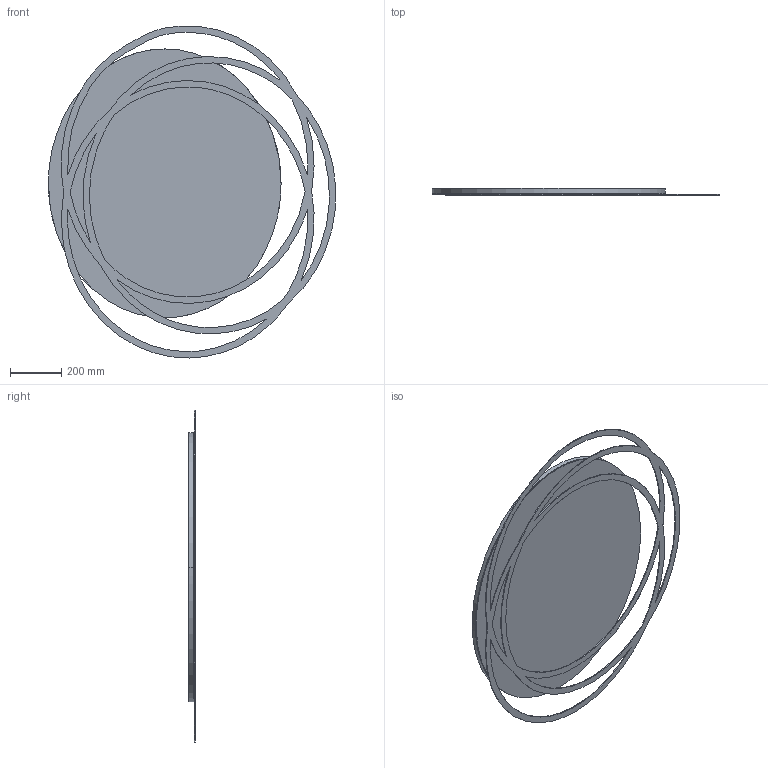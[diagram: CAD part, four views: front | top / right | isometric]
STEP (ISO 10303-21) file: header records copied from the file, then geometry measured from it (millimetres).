
FILE_DESCRIPTION(/* description */ (''),/* implementation_level */ '2;1');
FILE_NAME(/* name */ '3DMODE~1',/* time_stamp */ '2023-08-28T13:48:45+02:00',/* author */ (''),/* organization */ (''),/* preprocessor_version */ 'ST-DEVELOPER v16.5',/* originating_system */ '',/* authorisation */ '');
FILE_SCHEMA (('AUTOMOTIVE_DESIGN'));
Length unit declared in the file: millimetre
Products named in the file (1): Document
Bounding box: 1120.76 x 25.3 x 1295.13 mm (x, y, z)
Volume: 17176670.1 mm3; surface area: 3568464.5 mm2
Topology: 3 solids, 3 shells, 34 faces, 84 edges, 56 vertices
Faces by surface type: bspline 28, plane 6
Entity records: 3939 total; most frequent: CARTESIAN_POINT 3356, ORIENTED_EDGE 168, EDGE_CURVE 84, B_SPLINE_CURVE_WITH_KNOTS 72, VERTEX_POINT 56, EDGE_LOOP 48, ADVANCED_FACE 34, FACE_OUTER_BOUND 34
